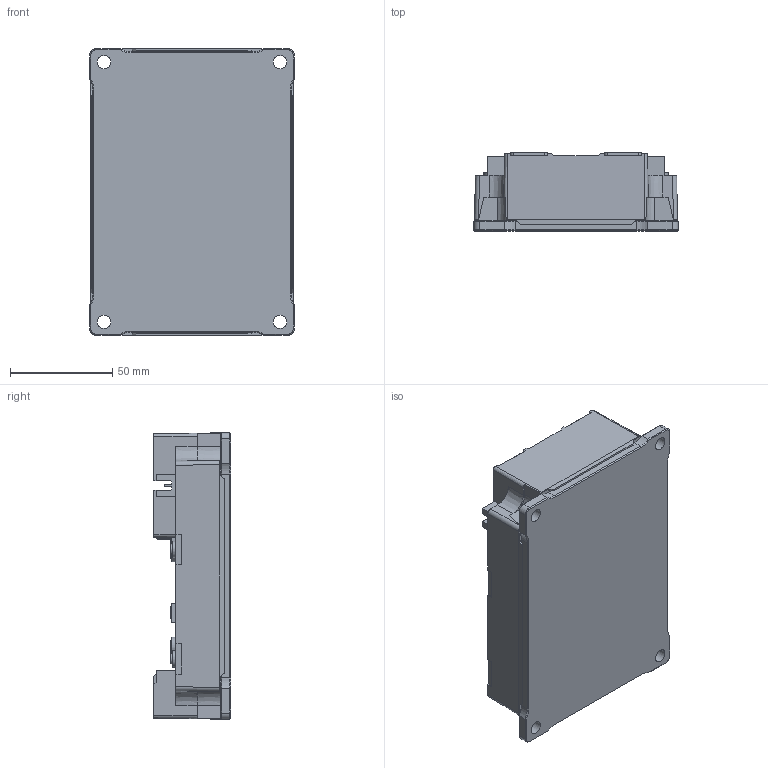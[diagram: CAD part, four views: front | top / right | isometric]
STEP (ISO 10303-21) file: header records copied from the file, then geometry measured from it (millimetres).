
FILE_DESCRIPTION (( 'STEP AP214' ), '1' );
FILE_NAME ('LD-ES-170634-MBM1000FS17G.STEP', '2017-08-25T04:11:42', ( 'Flora110' ), ( '' ), 'SwSTEP 2.0', 'SolidWorks 2010', '' );
FILE_SCHEMA (( 'AUTOMOTIVE_DESIGN' ));
Length unit declared in the file: millimetre
Products named in the file (1): LD-ES-170634-MBM1000FS17G
Bounding box: 100 x 38 x 140 mm (x, y, z)
Volume: 399591 mm3; surface area: 57471.2 mm2
Topology: 1 solids, 1 shells, 823 faces, 2129 edges, 1333 vertices
Faces by surface type: plane 487, cylinder 228, bspline 96, cone 12
Full cylindrical faces by diameter (mm): 3 x12, 3.8 x4, 5 x4, 6.5 x4, 8 x10, 9.5 x6
Entity records: 34315 total; most frequent: CARTESIAN_POINT 5652, ORIENTED_EDGE 4072, DIRECTION 3966, EDGE_CURVE 2036, LINE 1402, VECTOR 1402, VERTEX_POINT 1316, AXIS2_PLACEMENT_3D 1282
